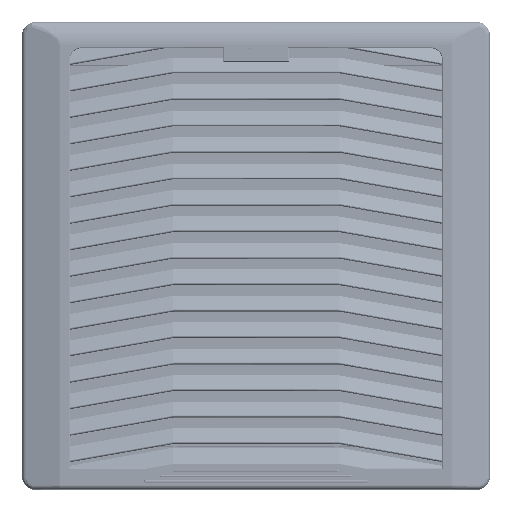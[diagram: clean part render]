
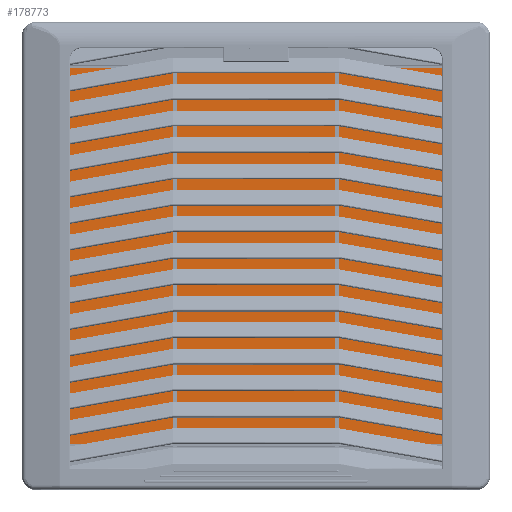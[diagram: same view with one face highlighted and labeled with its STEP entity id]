
A CAD part, top view. The second image highlights one B-rep face of the part: STEP entity #178773.
In plain terms, the highlighted planar face has unit normal (0, 0, 1) as drawn and (0, 0, -1) by its records, which use the part's own axes.
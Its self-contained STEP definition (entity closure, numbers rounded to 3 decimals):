
#19641=FACE_OUTER_BOUND('',#30886,.T.);
#30886=EDGE_LOOP('',(#136836,#136837,#136838,#136839));
#44781=LINE('',#279218,#59056);
#44785=LINE('',#279226,#59060);
#44788=LINE('',#279232,#59063);
#44791=LINE('',#279237,#59066);
#59056=VECTOR('',#215612,10.);
#59060=VECTOR('',#215618,10.);
#59063=VECTOR('',#215623,10.);
#59066=VECTOR('',#215628,10.);
#78475=VERTEX_POINT('',#279216);
#78476=VERTEX_POINT('',#279217);
#78479=VERTEX_POINT('',#279225);
#78481=VERTEX_POINT('',#279231);
#99166=EDGE_CURVE('',#78475,#78476,#44781,.T.);
#99170=EDGE_CURVE('',#78479,#78475,#44785,.T.);
#99173=EDGE_CURVE('',#78481,#78479,#44788,.T.);
#99176=EDGE_CURVE('',#78476,#78481,#44791,.T.);
#136836=ORIENTED_EDGE('',*,*,#99176,.F.);
#136837=ORIENTED_EDGE('',*,*,#99166,.F.);
#136838=ORIENTED_EDGE('',*,*,#99170,.F.);
#136839=ORIENTED_EDGE('',*,*,#99173,.F.);
#172235=PLANE('',#191289);
#178773=ADVANCED_FACE('',(#19641),#172235,.T.);
#191289=AXIS2_PLACEMENT_3D('',#279240,#215632,#215633);
#215612=DIRECTION('',(1.,0.,0.));
#215618=DIRECTION('',(0.,-1.,0.));
#215623=DIRECTION('',(-1.,0.,0.));
#215628=DIRECTION('',(0.,1.,0.));
#215632=DIRECTION('center_axis',(0.,0.,-1.));
#215633=DIRECTION('ref_axis',(-1.,0.,0.));
#279216=CARTESIAN_POINT('',(0.,0.,0.));
#279217=CARTESIAN_POINT('',(165.,0.,0.));
#279218=CARTESIAN_POINT('',(0.,0.,0.));
#279225=CARTESIAN_POINT('',(0.,165.,0.));
#279226=CARTESIAN_POINT('',(0.,165.,0.));
#279231=CARTESIAN_POINT('',(165.,165.,0.));
#279232=CARTESIAN_POINT('',(165.,165.,0.));
#279237=CARTESIAN_POINT('',(165.,0.,0.));
#279240=CARTESIAN_POINT('Origin',(82.5,-0.001,0.));
